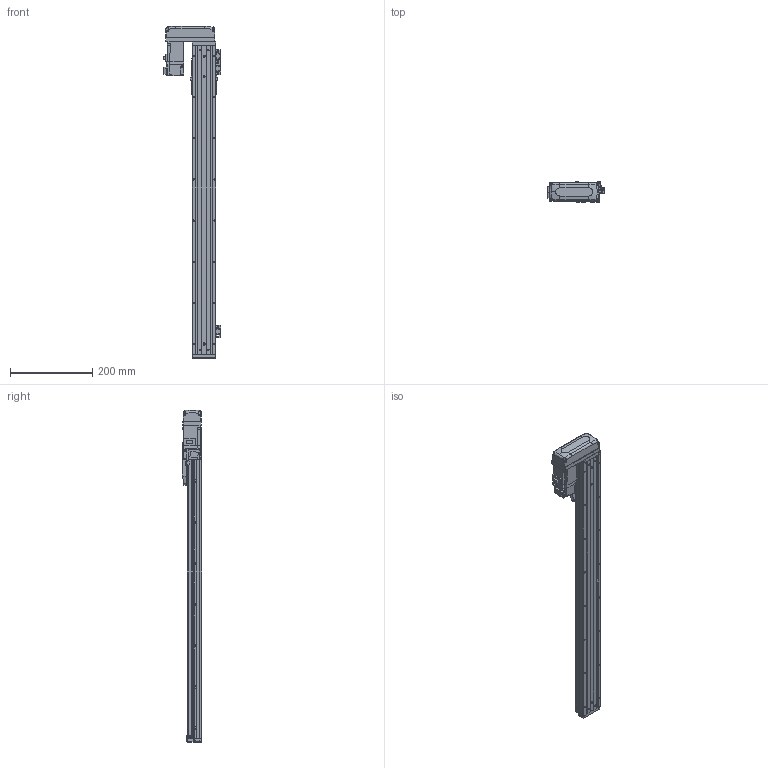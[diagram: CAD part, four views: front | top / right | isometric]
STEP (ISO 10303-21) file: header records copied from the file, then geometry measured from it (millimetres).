
FILE_DESCRIPTION (( 'STEP AP203' ), '1' );
FILE_NAME ('CTHA50-600-BR-M10-C4L.step', '2022-03-19T06:07:48', ( '微软用户' ), ( '微软中国' ), 'SwSTEP 2.0', 'SolidWorks 2020', '' );
FILE_SCHEMA (( 'CONFIG_CONTROL_DESIGN' ));
Length unit declared in the file: millimetre
Products named in the file (20): GBT 70.3-M3℅6; EE_SX911P_R; HG-KR13（三菱）; CTHA50-015-2_CTHA60-015-2; GBT77-2000 M3×3; CTHA50-002; CTHA60-033; GBT 70.1-M3℅6; CTHA50-030; GBT 70.1-M3×15; KTHA50-001_750; CTHA60-017; CTHA50-600-BR-M10-C4L; KTHA50-004; GBT 70.1-M4×12; KTHA50-005; CTHA60-016; CTHA50-031; GB¨uT 70.2-M3¡Á6_M3¡Á6; CTHA60-021
Assembly tree (60 placements, depth 2):
  CTHA50-600-BR-M10-C4L
    KTHA50-001_750
    KTHA50-004
    KTHA50-005
    GB¨uT 70.2-M3¡Á6_M3¡Á6  x10
    EE_SX911P_R  x3
    GBT77-2000 M3×3  x6
    GBT 70.1-M3℅6  x6
    CTHA60-017  x3
    GBT 70.1-M4×12  x10
    CTHA60-016  x2
    CTHA60-021  x2
    HG-KR13（三菱）
    CTHA50-002
    CTHA50-030  x2
    CTHA50-031
    GBT 70.3-M3℅6  x4
    CTHA50-015-2_CTHA60-015-2
    CTHA60-033
    GBT 70.1-M3×15  x4
Bounding box: 139.12 x 48 x 807 mm (x, y, z)
Volume: 1528629.3 mm3; surface area: 389809.8 mm2
Topology: 62 solids, 62 shells, 2553 faces, 6079 edges, 3726 vertices
Faces by surface type: plane 1446, cylinder 594, cone 355, torus 108, bspline 26, sphere 24
Entity records: 43977 total; most frequent: CARTESIAN_POINT 8107, DIRECTION 6865, ORIENTED_EDGE 6666, EDGE_CURVE 3333, VECTOR 2337, LINE 2337, AXIS2_PLACEMENT_3D 2264, VERTEX_POINT 2100
